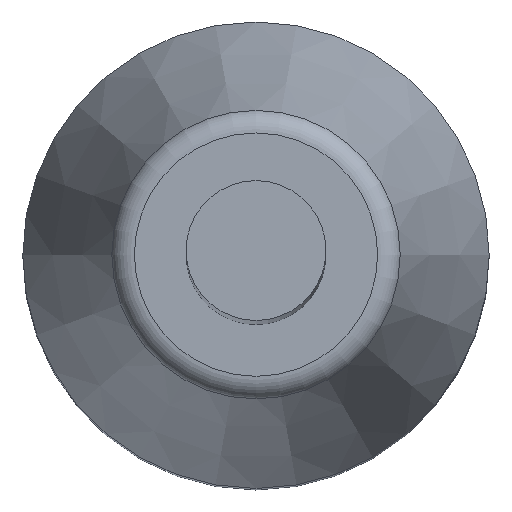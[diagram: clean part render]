
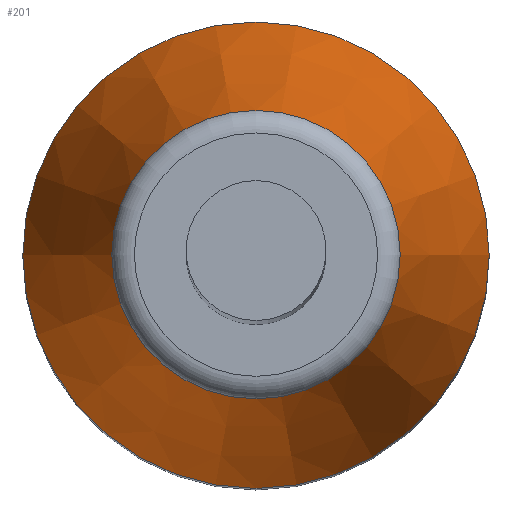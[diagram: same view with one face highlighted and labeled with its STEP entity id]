
A CAD part, top view. The second image highlights one B-rep face of the part: STEP entity #201.
In plain terms, the highlighted conical face has half-angle 14.99 degrees and reference radius 5 mm.
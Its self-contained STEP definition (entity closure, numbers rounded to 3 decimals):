
#172 = VERTEX_POINT('',#173);
#173 = CARTESIAN_POINT('',(5.,0.,19.3));
#179 = EDGE_CURVE('',#172,#172,#180,.T.);
#180 = CIRCLE('',#181,5.);
#181 = AXIS2_PLACEMENT_3D('',#182,#183,#184);
#182 = CARTESIAN_POINT('',(0.,0.,19.3));
#183 = DIRECTION('',(0.,0.,1.));
#184 = DIRECTION('',(1.,0.,0.));
#201 = ADVANCED_FACE('',(#202),#220,.T.);
#202 = FACE_BOUND('',#203,.T.);
#203 = EDGE_LOOP('',(#204,#211,#218,#219));
#204 = ORIENTED_EDGE('',*,*,#205,.T.);
#205 = EDGE_CURVE('',#172,#206,#208,.T.);
#206 = VERTEX_POINT('',#207);
#207 = CARTESIAN_POINT('',(3.091,0.,26.429));
#208 = B_SPLINE_CURVE_WITH_KNOTS('',1,(#209,#210),.UNSPECIFIED.,.F.,.F.,
  (2,2),(0.,1.),.PIECEWISE_BEZIER_KNOTS.);
#209 = CARTESIAN_POINT('',(5.,0.,19.3));
#210 = CARTESIAN_POINT('',(2.992,0.,26.8));
#211 = ORIENTED_EDGE('',*,*,#212,.F.);
#212 = EDGE_CURVE('',#206,#206,#213,.T.);
#213 = CIRCLE('',#214,3.091);
#214 = AXIS2_PLACEMENT_3D('',#215,#216,#217);
#215 = CARTESIAN_POINT('',(0.,0.,26.429));
#216 = DIRECTION('',(-0.,0.,1.));
#217 = DIRECTION('',(1.,0.,0.));
#218 = ORIENTED_EDGE('',*,*,#205,.F.);
#219 = ORIENTED_EDGE('',*,*,#179,.T.);
#220 = CONICAL_SURFACE('',#221,5.,0.262);
#221 = AXIS2_PLACEMENT_3D('',#222,#223,#224);
#222 = CARTESIAN_POINT('',(0.,0.,19.3));
#223 = DIRECTION('',(-0.,-0.,-1.));
#224 = DIRECTION('',(1.,0.,0.));
